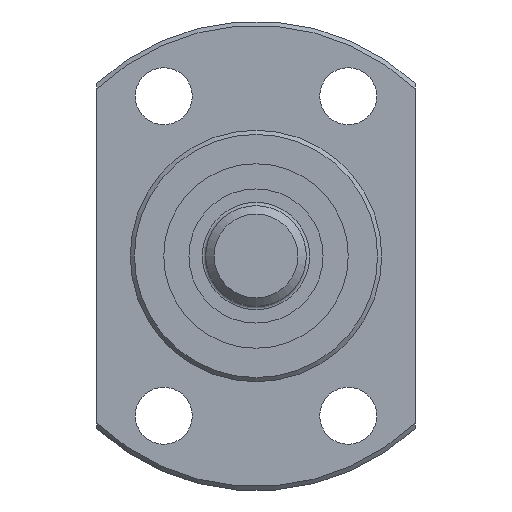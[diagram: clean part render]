
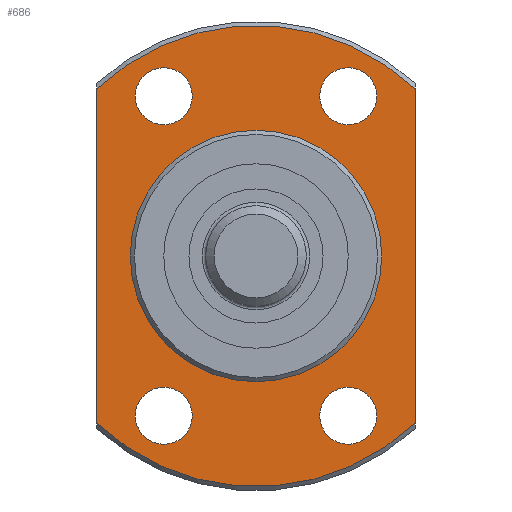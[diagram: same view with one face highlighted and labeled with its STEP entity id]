
A CAD part, left-side view. The second image highlights one B-rep face of the part: STEP entity #686.
In plain terms, the highlighted planar face has unit normal (-1, 0, 0).
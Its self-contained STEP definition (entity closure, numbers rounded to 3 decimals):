
#102=CIRCLE('',#797,13.75);
#103=CIRCLE('',#799,13.75);
#104=CIRCLE('',#801,7.);
#105=CIRCLE('',#802,1.7);
#106=CIRCLE('',#803,1.7);
#107=CIRCLE('',#804,1.7);
#108=CIRCLE('',#805,1.7);
#219=ORIENTED_EDGE('',*,*,#333,.T.);
#220=ORIENTED_EDGE('',*,*,#334,.T.);
#221=ORIENTED_EDGE('',*,*,#335,.T.);
#222=ORIENTED_EDGE('',*,*,#336,.T.);
#223=ORIENTED_EDGE('',*,*,#337,.T.);
#224=ORIENTED_EDGE('',*,*,#328,.F.);
#225=ORIENTED_EDGE('',*,*,#338,.T.);
#226=ORIENTED_EDGE('',*,*,#330,.F.);
#227=ORIENTED_EDGE('',*,*,#339,.T.);
#328=EDGE_CURVE('',#394,#395,#102,.T.);
#330=EDGE_CURVE('',#396,#397,#103,.T.);
#333=EDGE_CURVE('',#398,#398,#104,.T.);
#334=EDGE_CURVE('',#399,#399,#105,.T.);
#335=EDGE_CURVE('',#400,#400,#106,.T.);
#336=EDGE_CURVE('',#401,#401,#107,.T.);
#337=EDGE_CURVE('',#402,#402,#108,.T.);
#338=EDGE_CURVE('',#394,#397,#428,.T.);
#339=EDGE_CURVE('',#396,#395,#429,.T.);
#394=VERTEX_POINT('',#1208);
#395=VERTEX_POINT('',#1210);
#396=VERTEX_POINT('',#1217);
#397=VERTEX_POINT('',#1218);
#398=VERTEX_POINT('',#1229);
#399=VERTEX_POINT('',#1231);
#400=VERTEX_POINT('',#1233);
#401=VERTEX_POINT('',#1235);
#402=VERTEX_POINT('',#1237);
#428=LINE('',#1238,#446);
#429=LINE('',#1239,#447);
#446=VECTOR('',#1004,1000.);
#447=VECTOR('',#1005,1000.);
#504=EDGE_LOOP('',(#219));
#505=EDGE_LOOP('',(#220));
#506=EDGE_LOOP('',(#221));
#507=EDGE_LOOP('',(#222));
#508=EDGE_LOOP('',(#223));
#509=EDGE_LOOP('',(#224,#225,#226,#227));
#596=FACE_BOUND('',#504,.T.);
#597=FACE_BOUND('',#505,.T.);
#598=FACE_BOUND('',#506,.T.);
#599=FACE_BOUND('',#507,.T.);
#600=FACE_BOUND('',#508,.T.);
#601=FACE_BOUND('',#509,.T.);
#646=PLANE('',#800);
#686=ADVANCED_FACE('',(#596,#597,#598,#599,#600,#601),#646,.T.);
#797=AXIS2_PLACEMENT_3D('',#1209,#986,#987);
#799=AXIS2_PLACEMENT_3D('',#1216,#990,#991);
#800=AXIS2_PLACEMENT_3D('',#1227,#992,#993);
#801=AXIS2_PLACEMENT_3D('',#1228,#994,#995);
#802=AXIS2_PLACEMENT_3D('',#1230,#996,#997);
#803=AXIS2_PLACEMENT_3D('',#1232,#998,#999);
#804=AXIS2_PLACEMENT_3D('',#1234,#1000,#1001);
#805=AXIS2_PLACEMENT_3D('',#1236,#1002,#1003);
#986=DIRECTION('',(1.,0.,0.));
#987=DIRECTION('',(0.,0.,-1.));
#990=DIRECTION('',(1.,0.,0.));
#991=DIRECTION('',(0.,0.,-1.));
#992=DIRECTION('',(-1.,0.,0.));
#993=DIRECTION('',(0.,0.,1.));
#994=DIRECTION('',(1.,0.,0.));
#995=DIRECTION('',(0.,0.,-1.));
#996=DIRECTION('',(1.,0.,0.));
#997=DIRECTION('',(0.,0.,-1.));
#998=DIRECTION('',(1.,0.,0.));
#999=DIRECTION('',(0.,0.,-1.));
#1000=DIRECTION('',(1.,0.,0.));
#1001=DIRECTION('',(0.,0.,-1.));
#1002=DIRECTION('',(1.,0.,0.));
#1003=DIRECTION('',(0.,0.,-1.));
#1004=DIRECTION('',(0.,0.,-1.));
#1005=DIRECTION('',(0.,0.,1.));
#1208=CARTESIAN_POINT('',(17.,9.5,9.94));
#1209=CARTESIAN_POINT('',(17.,0.,0.));
#1210=CARTESIAN_POINT('',(17.,-9.5,9.94));
#1216=CARTESIAN_POINT('',(17.,0.,0.));
#1217=CARTESIAN_POINT('',(17.,-9.5,-9.94));
#1218=CARTESIAN_POINT('',(17.,9.5,-9.94));
#1227=CARTESIAN_POINT('',(17.,13.75,0.));
#1228=CARTESIAN_POINT('',(17.,0.,0.));
#1229=CARTESIAN_POINT('',(17.,0.,-7.));
#1230=CARTESIAN_POINT('',(17.,5.5,9.526));
#1231=CARTESIAN_POINT('',(17.,5.5,7.826));
#1232=CARTESIAN_POINT('',(17.,-5.5,9.526));
#1233=CARTESIAN_POINT('',(17.,-5.5,7.826));
#1234=CARTESIAN_POINT('',(17.,-5.5,-9.526));
#1235=CARTESIAN_POINT('',(17.,-5.5,-11.226));
#1236=CARTESIAN_POINT('',(17.,5.5,-9.526));
#1237=CARTESIAN_POINT('',(17.,5.5,-11.226));
#1238=CARTESIAN_POINT('',(17.,9.5,0.));
#1239=CARTESIAN_POINT('',(17.,-9.5,0.));
